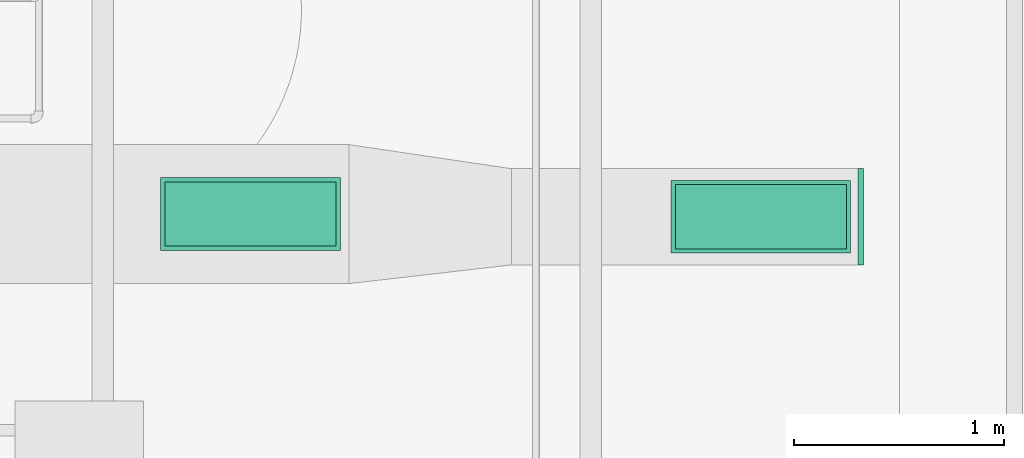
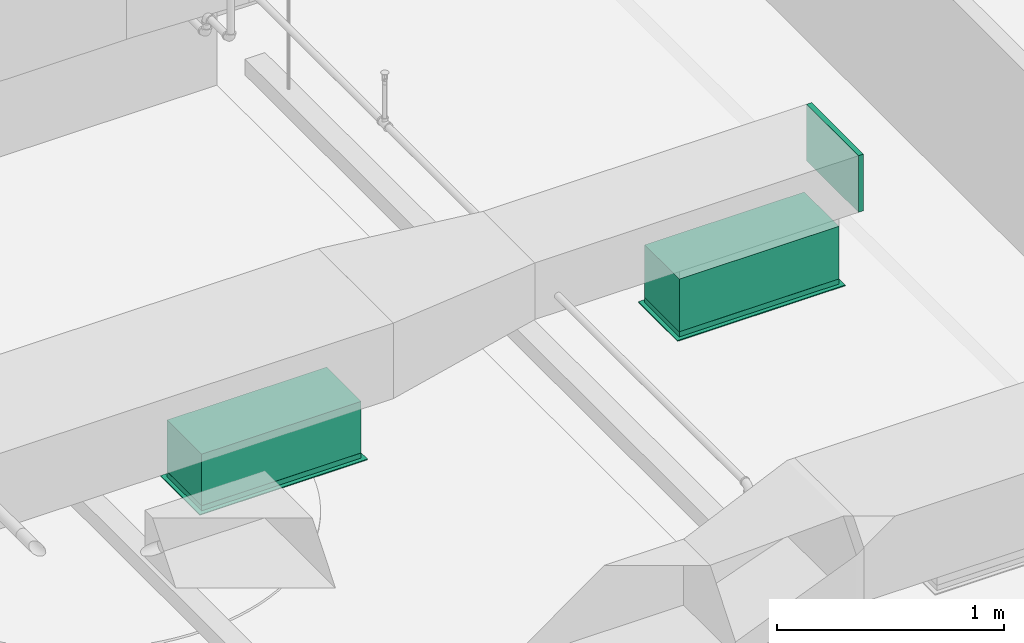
# One storey, part 45 of 108: 2 air terminals, 2 duct segments, 1 duct fitting.
"""IFC4 building model written with IfcOpenShell, lengths in feet."""

import ifcopenshell
import ifcopenshell.guid

model = None  # the IFC model being written
_history = None  # IfcOwnerHistory: only IFC2X3 demands one
_inside = {}  # id of a spatial element -> (the spatial element, [elements in it])
_under = {}  # id of a project, library or spatial element -> (it, [spatial elements below it])
_declared = {}  # id of a project -> (the project, [libraries it declares])
_typed = {}  # id of a type object -> (the type object, [elements of that type])
_made_of = {}  # id of a material, layer set ... -> (it, [elements and type objects made of it])


def new_model(schema):
    """Start an empty IFC model of exactly this schema.

    Asked for "IFC4X3", IfcOpenShell would pick the latest addendum, in which some entities
    have other attributes; the version numbers below select the first issue.
    IFC2X3 requires an IfcOwnerHistory on every rooted entity: one is made here for all.
    """
    global model, _history
    if schema == "IFC4X3":
        model = ifcopenshell.file(schema_version=(4, 3, 0, 0))
    else:
        model = ifcopenshell.file(schema=schema)
    _inside.clear()
    _under.clear()
    _declared.clear()
    _typed.clear()
    _made_of.clear()
    _history = None
    if model.schema == "IFC2X3":
        org = make("IfcOrganization", Name="unknown")
        user = make(
            "IfcPersonAndOrganization",
            ThePerson=make("IfcPerson", FamilyName="unknown"),
            TheOrganization=org,
        )
        app = make(
            "IfcApplication",
            ApplicationDeveloper=org,
            Version="unknown",
            ApplicationFullName="unknown",
            ApplicationIdentifier="unknown",
        )
        _history = make(
            "IfcOwnerHistory",
            OwningUser=user,
            OwningApplication=app,
            ChangeAction="ADDED",
            CreationDate=0,
        )
    return model


def make(cls, **values):
    """One entity of the class cls with the attributes given. An attribute that is None is left unset."""
    return model.create_entity(
        cls, **{name: value for name, value in values.items() if value is not None}
    )


def entity(cls, *values):
    """Any entity or typed value of the class cls, its attributes in the order of the schema. None: left unset."""
    e = model.create_entity(cls)
    for i, value in enumerate(values):
        if value is not None:
            e[i] = value
    return e


def rooted(cls, **values):
    """An entity with a GlobalId (a new one), such as an element, a storey or a relation."""
    return make(cls, GlobalId=ifcopenshell.guid.new(), OwnerHistory=_history, **values)


def si_unit(unit_type, name, prefix=None):
    """IfcSIUnit, for example si_unit("LENGTHUNIT", "METRE", prefix="MILLI")."""
    return make("IfcSIUnit", UnitType=unit_type, Prefix=prefix, Name=name)


def converted_unit(unit_type, name, factor, base, dimensions=None, offset=None):
    """IfcConversionBasedUnit, such as the inch: factor (a typed value) times the base unit."""
    return make(
        "IfcConversionBasedUnit"
        if offset is None
        else "IfcConversionBasedUnitWithOffset",
        ConversionOffset=offset,
        Dimensions=None
        if dimensions is None
        else entity("IfcDimensionalExponents", *dimensions),
        UnitType=unit_type,
        Name=name,
        ConversionFactor=make(
            "IfcMeasureWithUnit", ValueComponent=factor, UnitComponent=base
        ),
    )


def derived_unit(unit_type, elements):
    """IfcDerivedUnit: a product of units, each with its exponent."""
    return make(
        "IfcDerivedUnit",
        Elements=[
            make("IfcDerivedUnitElement", Unit=unit, Exponent=power)
            for unit, power in elements
        ],
        UnitType=unit_type,
    )


def assignment(units):
    """IfcUnitAssignment: the units of a project."""
    return None if units is None else make("IfcUnitAssignment", Units=units)


def point(xyz):
    """IfcCartesianPoint."""
    return None if xyz is None else make("IfcCartesianPoint", Coordinates=xyz)


def direction(xyz):
    """IfcDirection."""
    return None if xyz is None else make("IfcDirection", DirectionRatios=xyz)


def frame(location, z_axis=None, x_axis=None):
    """IfcAxis2Placement3D, a coordinate frame: its origin and axes. An axis left out is left unset."""
    return make(
        "IfcAxis2Placement3D",
        Location=point(location),
        Axis=direction(z_axis),
        RefDirection=direction(x_axis),
    )


def frame_2d(location, x_axis=None):
    """IfcAxis2Placement2D, a coordinate frame in the plane: its origin and x axis."""
    return make(
        "IfcAxis2Placement2D", Location=point(location), RefDirection=direction(x_axis)
    )


def origin():
    """The frame at (0, 0, 0) with its axes left unset."""
    return frame((0.0, 0.0, 0.0))


def place(relative_to, where):
    """IfcLocalPlacement: puts the frame where relative to a parent placement (None: the world)."""
    return make(
        "IfcLocalPlacement", PlacementRelTo=relative_to, RelativePlacement=where
    )


def context(
    kind, dimensions, precision=None, world=None, true_north=None, identifier=None
):
    """IfcGeometricRepresentationContext, for example the 3D "Model" context."""
    return make(
        "IfcGeometricRepresentationContext",
        ContextIdentifier=identifier,
        ContextType=kind,
        CoordinateSpaceDimension=dimensions,
        Precision=precision,
        WorldCoordinateSystem=world,
        TrueNorth=true_north,
    )


def subcontext(parent, identifier, kind, view, scale=None):
    """IfcGeometricRepresentationSubContext, for example "Body" below "Model"."""
    return make(
        "IfcGeometricRepresentationSubContext",
        ContextIdentifier=identifier,
        ContextType=kind,
        ParentContext=parent,
        TargetScale=scale,
        TargetView=view,
    )


def project(units=None, contexts=None):
    """IfcProject with its units and contexts."""
    return rooted(
        "IfcProject",
        Name="project",
        RepresentationContexts=contexts,
        UnitsInContext=assignment(units),
    )


def spatial(cls, under=None, at=None, **own):
    """A site, building, storey or space (cls), placed at a placement, below another one or the project."""
    s = rooted(cls, ObjectPlacement=at, **own)
    if under is not None:
        _under.setdefault(under.id(), (under, []))[1].append(s)
    return s


def profile(cls, at=None, kind="AREA", **sizes):
    """A parametric profile (cls). Its sizes go by their IFC names, for example OverallWidth=200.0."""
    return make(cls, ProfileType=kind, Position=at, **sizes)


def rectangle(**sizes):
    """IfcRectangleProfileDef."""
    return profile("IfcRectangleProfileDef", **sizes)


def extrude(swept, where, along, depth):
    """IfcExtrudedAreaSolid: the profile swept, set in the frame where, extruded along a direction by depth."""
    return make(
        "IfcExtrudedAreaSolid",
        SweptArea=swept,
        Position=where,
        ExtrudedDirection=direction(along),
        Depth=depth,
    )


def shape(context_of_items, identifier, shape_type, items):
    """IfcShapeRepresentation: the items that make up one representation, for example the "Body"."""
    return make(
        "IfcShapeRepresentation",
        ContextOfItems=context_of_items,
        RepresentationIdentifier=identifier,
        RepresentationType=shape_type,
        Items=items,
    )


def source(mapping_origin, context_of_items, identifier, shape_type, items):
    """IfcRepresentationMap: a shape defined once, which mapped items show again and again."""
    return make(
        "IfcRepresentationMap",
        MappingOrigin=mapping_origin,
        MappedRepresentation=shape(context_of_items, identifier, shape_type, items),
    )


def transform(
    local_origin,
    x_axis=None,
    y_axis=None,
    z_axis=None,
    scale=None,
    scale2=None,
    scale3=None,
    uniform=True,
):
    """IfcCartesianTransformationOperator3D, or its non-uniform kind. x_axis, y_axis, z_axis: its Axis1, 2, 3."""
    if uniform:
        return make(
            "IfcCartesianTransformationOperator3D",
            Axis1=direction(x_axis),
            Axis2=direction(y_axis),
            LocalOrigin=point(local_origin),
            Scale=scale,
            Axis3=direction(z_axis),
        )
    return make(
        "IfcCartesianTransformationOperator3DnonUniform",
        Axis1=direction(x_axis),
        Axis2=direction(y_axis),
        LocalOrigin=point(local_origin),
        Scale=scale,
        Axis3=direction(z_axis),
        Scale2=scale2,
        Scale3=scale3,
    )


def mapped(mapping_source, mapping_target):
    """IfcMappedItem: shows the shape of a source again, moved by a transform."""
    return make(
        "IfcMappedItem", MappingSource=mapping_source, MappingTarget=mapping_target
    )


def made_of(thing, what):
    """Note that an element or type object is made of a material, layer set ...; save() writes the relation."""
    if what is not None:
        _made_of.setdefault(what.id(), (what, []))[1].append(thing)
    return thing


def type_object(cls, material=None, **own):
    """A type object (cls), such as IfcWallType, which elements share."""
    return made_of(rooted(cls, **own), material)


def type_shapes(of_type, sources):
    """Give a type object the sources (RepresentationMaps) that its elements show as mapped items."""
    of_type.RepresentationMaps = sources


def element(
    cls,
    number,
    at=None,
    inside=None,
    cuts=None,
    type_object=None,
    material=None,
    context=None,
    identifier="Body",
    shape_type=None,
    held_by="IfcProductDefinitionShape",
    body=None,
    shapes=None,
    **own,
):
    """One element of the class cls, such as IfcWall. Its Tag is "e" and its number.

    at: its placement. inside: the storey or other place that contains it. cuts: it is an
    opening in that element (IfcRelVoidsElement). A single representation is given by context,
    identifier, shape_type and body (its items); several are given by shapes. held_by: the class
    of the entity that holds the representations. save() writes the other relations.
    """
    e = rooted(cls, Tag="e%d" % number, ObjectPlacement=at, **own)
    if body is not None:
        shapes = [shape(context, identifier, shape_type, body)]
    if shapes is not None:
        e.Representation = make(held_by, Representations=shapes)
    if inside is not None:
        _inside.setdefault(inside.id(), (inside, []))[1].append(e)
    if cuts is not None:
        rooted(
            "IfcRelVoidsElement", RelatingBuildingElement=cuts, RelatedOpeningElement=e
        )
    if type_object is not None:
        _typed.setdefault(type_object.id(), (type_object, []))[1].append(e)
    return made_of(e, material)


def aggregate(whole, parts):
    """IfcRelAggregates: a whole, such as a stair, and the parts it consists of."""
    return rooted("IfcRelAggregates", RelatingObject=whole, RelatedObjects=parts)


def save(model, path):
    """Write the relations noted so far, then the file.

    IfcRelAggregates (storeys below a building ...), IfcRelContainedInSpatialStructure (elements
    in a storey), IfcRelDefinesByType, IfcRelAssociatesMaterial and IfcRelDeclares: one each for
    every whole, place, type object, material and project.
    """
    for whole, parts in _under.values():
        aggregate(whole, parts)
    for where, things in _inside.values():
        rooted(
            "IfcRelContainedInSpatialStructure",
            RelatedElements=things,
            RelatingStructure=where,
        )
    for kind, things in _typed.values():
        rooted("IfcRelDefinesByType", RelatedObjects=things, RelatingType=kind)
    for what, things in _made_of.values():
        rooted("IfcRelAssociatesMaterial", RelatedObjects=things, RelatingMaterial=what)
    for by, libraries in _declared.values():
        rooted("IfcRelDeclares", RelatingContext=by, RelatedDefinitions=libraries)
    model.write(path)


model = new_model("IFC4")

# Units and contexts
model_context = context("Model", 3, precision=0.0001, world=origin(), true_north=direction((6.12303176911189e-17, 1.0)))
body_context = subcontext(model_context, "Body", "Model", "MODEL_VIEW")
ifc_project = project(units=[converted_unit("LENGTHUNIT", "FOOT", entity("IfcRatioMeasure", 0.3048), si_unit("LENGTHUNIT", "METRE"), dimensions=[1, 0, 0, 0, 0, 0, 0]), converted_unit("AREAUNIT", "SQUARE FOOT", entity("IfcRatioMeasure", 0.09290304), si_unit("AREAUNIT", "SQUARE_METRE"), dimensions=[2, 0, 0, 0, 0, 0, 0]), converted_unit("VOLUMEUNIT", "CUBIC FOOT", entity("IfcRatioMeasure", 0.028316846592), si_unit("VOLUMEUNIT", "CUBIC_METRE"), dimensions=[3, 0, 0, 0, 0, 0, 0]), converted_unit("PLANEANGLEUNIT", "DEGREE", entity("IfcRatioMeasure", 0.0174532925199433), si_unit("PLANEANGLEUNIT", "RADIAN"), dimensions=[0, 0, 0, 0, 0, 0, 0]), si_unit("MASSUNIT", "GRAM", prefix="KILO"), derived_unit("MASSDENSITYUNIT", [(si_unit("MASSUNIT", "GRAM", prefix="KILO"), 1), (si_unit("LENGTHUNIT", "METRE"), -3)]), si_unit("TIMEUNIT", "SECOND"), si_unit("FREQUENCYUNIT", "HERTZ"), si_unit("THERMODYNAMICTEMPERATUREUNIT", "DEGREE_CELSIUS"), derived_unit("THERMALTRANSMITTANCEUNIT", [(si_unit("MASSUNIT", "GRAM", prefix="KILO"), 1), (si_unit("THERMODYNAMICTEMPERATUREUNIT", "KELVIN"), -1), (si_unit("TIMEUNIT", "SECOND"), -3)]), derived_unit("VOLUMETRICFLOWRATEUNIT", [(si_unit("LENGTHUNIT", "METRE"), 3), (si_unit("TIMEUNIT", "SECOND"), -1)]), si_unit("ELECTRICCURRENTUNIT", "AMPERE"), si_unit("ELECTRICVOLTAGEUNIT", "VOLT"), si_unit("POWERUNIT", "WATT"), si_unit("FORCEUNIT", "NEWTON"), si_unit("ILLUMINANCEUNIT", "LUX"), si_unit("LUMINOUSFLUXUNIT", "LUMEN"), si_unit("LUMINOUSINTENSITYUNIT", "CANDELA"), derived_unit("USERDEFINED", [(si_unit("MASSUNIT", "GRAM", prefix="KILO"), -1), (si_unit("LENGTHUNIT", "METRE"), -2), (si_unit("TIMEUNIT", "SECOND"), 3), (si_unit("LUMINOUSFLUXUNIT", "LUMEN"), 1)]), derived_unit("LINEARVELOCITYUNIT", [(si_unit("LENGTHUNIT", "METRE"), 1), (si_unit("TIMEUNIT", "SECOND"), -1)]), si_unit("PRESSUREUNIT", "PASCAL"), derived_unit("USERDEFINED", [(si_unit("LENGTHUNIT", "METRE"), -2), (si_unit("MASSUNIT", "GRAM", prefix="KILO"), 1), (si_unit("TIMEUNIT", "SECOND"), -2)])], contexts=[model_context])

# Site, building, storey
site_placement = place(None, origin())
site = spatial("IfcSite", under=ifc_project, at=site_placement, Name="Default", CompositionType="ELEMENT")
building_placement = place(site_placement, origin())
building = spatial("IfcBuilding", under=site, at=building_placement, CompositionType="ELEMENT")
storey_placement = place(building_placement, frame((0.0, 0.0, 168.0)))
storey = spatial("IfcBuildingStorey", under=building, at=storey_placement, Name="Level 15", CompositionType="ELEMENT", Elevation=168.0)

# Duct segments
duct_segment_type = type_object("IfcDuctSegmentType", Name="Rectangular Duct:Square Throat Elbows / S&D", PredefinedType="NOTDEFINED")
duct_segment_1_placement = place(storey_placement, frame((-23.5857314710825, -4.23329294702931, 8.65364583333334)))
element("IfcDuctSegment", 1, at=duct_segment_1_placement, inside=storey, type_object=duct_segment_type, Name="Rectangular Duct:Square Throat Elbows / S&D", ObjectType="Rectangular Duct:Square Throat Elbows / S&D", PredefinedType="NOTDEFINED", context=body_context, shape_type="SweptSolid", body=[
    extrude(rectangle(XDim=2.66666666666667, YDim=1.0, at=frame_2d((-1.77635683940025e-15, 0.0), x_axis=(1.0, 0.0))), frame((1.33333333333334, 0.500000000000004, 0.0), z_axis=(0.0, 0.0, 1.0), x_axis=(-1.0, 0.0, 0.0)), (0.0, 0.0, 1.0), 0.929687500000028),
])
duct_segment_2_placement = place(storey_placement, frame((-31.5419066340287, -4.19162628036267, 8.34114583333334)))
element("IfcDuctSegment", 2, at=duct_segment_2_placement, inside=storey, type_object=duct_segment_type, Name="Rectangular Duct:Square Throat Elbows / S&D", ObjectType="Rectangular Duct:Square Throat Elbows / S&D", PredefinedType="NOTDEFINED", context=body_context, shape_type="SweptSolid", body=[
    extrude(rectangle(XDim=2.66666666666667, YDim=1.0, at=frame_2d((1.77635683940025e-15, 0.0), x_axis=(1.0, 0.0))), frame((1.33333333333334, 0.500000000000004, 0.0), z_axis=(0.0, 0.0, 1.0), x_axis=(-1.0, 0.0, 0.0)), (0.0, 0.0, 1.0), 0.908854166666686),
])

# Duct fitting
duct_fitting_type = type_object("IfcDuctFittingType", Name="Standard", PredefinedType="NOTDEFINED")
shared_shape_1 = source(origin(), body_context, "Body", "SweptSolid", [
    extrude(rectangle(XDim=0.0833333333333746, YDim=1.5, at=frame_2d((-6.17561557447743e-16, 0.0), x_axis=(1.0, 0.0))), frame((0.0416666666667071, 0.0, -0.500000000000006)), (0.0, 0.0, 1.0), 1.0),
])
type_shapes(duct_fitting_type, [shared_shape_1])
duct_fitting_placement = place(storey_placement, frame((-20.7369973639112, -3.73329294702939, 10.4166666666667)))
element("IfcDuctFitting", 3, at=duct_fitting_placement, inside=storey, type_object=duct_fitting_type, Name="Rectangular Endcap:Standard", ObjectType="Rectangular Endcap:Standard", PredefinedType="NOTDEFINED", context=body_context, shape_type="MappedRepresentation", body=[
    mapped(shared_shape_1, transform((0.0, 0.0, 0.0), scale=1.0)),
])

# Air terminals
air_terminal_type = type_object("IfcAirTerminalType", Name="32x12", PredefinedType="NOTDEFINED")
cartesian_point_1 = entity("IfcCartesianPoint", [1.40104166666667, -0.015625, 0.567708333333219])
vertex_point_1 = entity("IfcVertexPoint", cartesian_point_1)
cartesian_point_2 = entity("IfcCartesianPoint", [-1.40104166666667, -0.015625, 0.567708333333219])
vertex_point_2 = entity("IfcVertexPoint", cartesian_point_2)
ifc_direction_1 = entity("IfcDirection", [-1.0, 0.0, 0.0])
edge_curve_1 = entity("IfcEdgeCurve", vertex_point_1, vertex_point_2, entity("IfcTrimmedCurve", entity("IfcLine", cartesian_point_1, entity("IfcVector", ifc_direction_1, 1.0)), [cartesian_point_1], [cartesian_point_2], True, "CARTESIAN"), True)
cartesian_point_3 = entity("IfcCartesianPoint", [-1.40104166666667, -0.015625, -0.567708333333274])
vertex_point_3 = entity("IfcVertexPoint", cartesian_point_3)
ifc_direction_2 = entity("IfcDirection", [0.0, 0.0, -1.0])
edge_curve_2 = entity("IfcEdgeCurve", vertex_point_2, vertex_point_3, entity("IfcTrimmedCurve", entity("IfcLine", cartesian_point_2, entity("IfcVector", ifc_direction_2, 1.0)), [cartesian_point_2], [cartesian_point_3], True, "CARTESIAN"), True)
cartesian_point_4 = entity("IfcCartesianPoint", [1.40104166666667, -0.015625, -0.567708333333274])
vertex_point_4 = entity("IfcVertexPoint", cartesian_point_4)
ifc_direction_3 = entity("IfcDirection", [1.0, 0.0, 0.0])
edge_curve_3 = entity("IfcEdgeCurve", vertex_point_3, vertex_point_4, entity("IfcTrimmedCurve", entity("IfcLine", cartesian_point_3, entity("IfcVector", ifc_direction_3, 1.0)), [cartesian_point_3], [cartesian_point_4], True, "CARTESIAN"), True)
ifc_direction_4 = entity("IfcDirection", [0.0, 0.0, 1.0])
edge_curve_4 = entity("IfcEdgeCurve", vertex_point_4, vertex_point_1, entity("IfcTrimmedCurve", entity("IfcLine", cartesian_point_4, entity("IfcVector", ifc_direction_4, 1.0)), [cartesian_point_4], [cartesian_point_1], True, "CARTESIAN"), True)
ifc_direction_5 = entity("IfcDirection", [0.0, -1.0, 0.0])
cartesian_point_5 = entity("IfcCartesianPoint", [1.40104166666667, 0.0, 0.567708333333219])
vertex_point_5 = entity("IfcVertexPoint", cartesian_point_5)
cartesian_point_6 = entity("IfcCartesianPoint", [1.40104166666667, 0.0, -0.567708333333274])
vertex_point_6 = entity("IfcVertexPoint", cartesian_point_6)
edge_curve_5 = entity("IfcEdgeCurve", vertex_point_5, vertex_point_6, entity("IfcTrimmedCurve", entity("IfcLine", cartesian_point_5, entity("IfcVector", ifc_direction_2, 1.0)), [cartesian_point_5], [cartesian_point_6], True, "CARTESIAN"), True)
cartesian_point_7 = entity("IfcCartesianPoint", [-1.40104166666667, 0.0, -0.567708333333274])
vertex_point_7 = entity("IfcVertexPoint", cartesian_point_7)
edge_curve_6 = entity("IfcEdgeCurve", vertex_point_6, vertex_point_7, entity("IfcTrimmedCurve", entity("IfcLine", cartesian_point_6, entity("IfcVector", ifc_direction_1, 1.0)), [cartesian_point_6], [cartesian_point_7], True, "CARTESIAN"), True)
cartesian_point_8 = entity("IfcCartesianPoint", [-1.40104166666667, 0.0, 0.567708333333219])
vertex_point_8 = entity("IfcVertexPoint", cartesian_point_8)
edge_curve_7 = entity("IfcEdgeCurve", vertex_point_7, vertex_point_8, entity("IfcTrimmedCurve", entity("IfcLine", cartesian_point_7, entity("IfcVector", ifc_direction_4, 1.0)), [cartesian_point_7], [cartesian_point_8], True, "CARTESIAN"), True)
edge_curve_8 = entity("IfcEdgeCurve", vertex_point_8, vertex_point_5, entity("IfcTrimmedCurve", entity("IfcLine", cartesian_point_8, entity("IfcVector", ifc_direction_3, 1.0)), [cartesian_point_8], [cartesian_point_5], True, "CARTESIAN"), True)
cartesian_point_9 = entity("IfcCartesianPoint", [-1.33333333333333, 0.0, 0.5])
vertex_point_9 = entity("IfcVertexPoint", cartesian_point_9)
cartesian_point_10 = entity("IfcCartesianPoint", [-1.33333333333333, 0.0, -0.5])
vertex_point_10 = entity("IfcVertexPoint", cartesian_point_10)
edge_curve_9 = entity("IfcEdgeCurve", vertex_point_9, vertex_point_10, entity("IfcTrimmedCurve", entity("IfcLine", cartesian_point_9, entity("IfcVector", ifc_direction_2, 1.0)), [cartesian_point_9], [cartesian_point_10], True, "CARTESIAN"), True)
cartesian_point_11 = entity("IfcCartesianPoint", [1.33333333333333, 0.0, -0.5])
vertex_point_11 = entity("IfcVertexPoint", cartesian_point_11)
edge_curve_10 = entity("IfcEdgeCurve", vertex_point_10, vertex_point_11, entity("IfcTrimmedCurve", entity("IfcLine", cartesian_point_10, entity("IfcVector", ifc_direction_3, 1.0)), [cartesian_point_10], [cartesian_point_11], True, "CARTESIAN"), True)
cartesian_point_12 = entity("IfcCartesianPoint", [1.33333333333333, 0.0, 0.5])
vertex_point_12 = entity("IfcVertexPoint", cartesian_point_12)
edge_curve_11 = entity("IfcEdgeCurve", vertex_point_11, vertex_point_12, entity("IfcTrimmedCurve", entity("IfcLine", cartesian_point_11, entity("IfcVector", ifc_direction_4, 1.0)), [cartesian_point_11], [cartesian_point_12], True, "CARTESIAN"), True)
edge_curve_12 = entity("IfcEdgeCurve", vertex_point_12, vertex_point_9, entity("IfcTrimmedCurve", entity("IfcLine", cartesian_point_12, entity("IfcVector", ifc_direction_1, 1.0)), [cartesian_point_12], [cartesian_point_9], True, "CARTESIAN"), True)
ifc_direction_6 = entity("IfcDirection", [0.0, 1.0, 0.0])
edge_curve_13 = entity("IfcEdgeCurve", vertex_point_1, vertex_point_5, entity("IfcTrimmedCurve", entity("IfcLine", cartesian_point_1, entity("IfcVector", ifc_direction_6, 1.0)), [cartesian_point_1], [cartesian_point_5], True, "CARTESIAN"), True)
edge_curve_14 = entity("IfcEdgeCurve", vertex_point_8, vertex_point_2, entity("IfcTrimmedCurve", entity("IfcLine", cartesian_point_2, entity("IfcVector", ifc_direction_5, 1.0)), [cartesian_point_8], [cartesian_point_2], True, "CARTESIAN"), True)
edge_curve_15 = entity("IfcEdgeCurve", vertex_point_7, vertex_point_3, entity("IfcTrimmedCurve", entity("IfcLine", cartesian_point_3, entity("IfcVector", ifc_direction_5, 1.0)), [cartesian_point_7], [cartesian_point_3], True, "CARTESIAN"), True)
edge_curve_16 = entity("IfcEdgeCurve", vertex_point_6, vertex_point_4, entity("IfcTrimmedCurve", entity("IfcLine", cartesian_point_4, entity("IfcVector", ifc_direction_5, 1.0)), [cartesian_point_6], [cartesian_point_4], True, "CARTESIAN"), True)
cartesian_point_13 = entity("IfcCartesianPoint", [-1.33333333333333, 0.08984375, 0.5])
vertex_point_13 = entity("IfcVertexPoint", cartesian_point_13)
cartesian_point_14 = entity("IfcCartesianPoint", [1.33333333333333, 0.08984375, 0.5])
vertex_point_14 = entity("IfcVertexPoint", cartesian_point_14)
edge_curve_17 = entity("IfcEdgeCurve", vertex_point_13, vertex_point_14, entity("IfcTrimmedCurve", entity("IfcLine", cartesian_point_13, entity("IfcVector", ifc_direction_3, 1.0)), [cartesian_point_13], [cartesian_point_14], True, "CARTESIAN"), True)
cartesian_point_15 = entity("IfcCartesianPoint", [1.33333333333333, 0.08984375, -0.5])
vertex_point_15 = entity("IfcVertexPoint", cartesian_point_15)
edge_curve_18 = entity("IfcEdgeCurve", vertex_point_14, vertex_point_15, entity("IfcTrimmedCurve", entity("IfcLine", cartesian_point_14, entity("IfcVector", ifc_direction_2, 1.0)), [cartesian_point_14], [cartesian_point_15], True, "CARTESIAN"), True)
cartesian_point_16 = entity("IfcCartesianPoint", [-1.33333333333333, 0.08984375, -0.5])
vertex_point_16 = entity("IfcVertexPoint", cartesian_point_16)
edge_curve_19 = entity("IfcEdgeCurve", vertex_point_15, vertex_point_16, entity("IfcTrimmedCurve", entity("IfcLine", cartesian_point_15, entity("IfcVector", ifc_direction_1, 1.0)), [cartesian_point_15], [cartesian_point_16], True, "CARTESIAN"), True)
edge_curve_20 = entity("IfcEdgeCurve", vertex_point_16, vertex_point_13, entity("IfcTrimmedCurve", entity("IfcLine", cartesian_point_16, entity("IfcVector", ifc_direction_4, 1.0)), [cartesian_point_16], [cartesian_point_13], True, "CARTESIAN"), True)
cartesian_point_17 = entity("IfcCartesianPoint", [-1.3125, 0.08984375, 0.479166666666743])
vertex_point_17 = entity("IfcVertexPoint", cartesian_point_17)
cartesian_point_18 = entity("IfcCartesianPoint", [-1.3125, 0.08984375, -0.479166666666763])
vertex_point_18 = entity("IfcVertexPoint", cartesian_point_18)
edge_curve_21 = entity("IfcEdgeCurve", vertex_point_17, vertex_point_18, entity("IfcTrimmedCurve", entity("IfcLine", cartesian_point_17, entity("IfcVector", ifc_direction_2, 1.0)), [cartesian_point_17], [cartesian_point_18], True, "CARTESIAN"), True)
cartesian_point_19 = entity("IfcCartesianPoint", [1.3125, 0.08984375, -0.479166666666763])
vertex_point_19 = entity("IfcVertexPoint", cartesian_point_19)
edge_curve_22 = entity("IfcEdgeCurve", vertex_point_18, vertex_point_19, entity("IfcTrimmedCurve", entity("IfcLine", cartesian_point_18, entity("IfcVector", ifc_direction_3, 1.0)), [cartesian_point_18], [cartesian_point_19], True, "CARTESIAN"), True)
cartesian_point_20 = entity("IfcCartesianPoint", [1.3125, 0.08984375, 0.479166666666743])
vertex_point_20 = entity("IfcVertexPoint", cartesian_point_20)
edge_curve_23 = entity("IfcEdgeCurve", vertex_point_19, vertex_point_20, entity("IfcTrimmedCurve", entity("IfcLine", cartesian_point_19, entity("IfcVector", ifc_direction_4, 1.0)), [cartesian_point_19], [cartesian_point_20], True, "CARTESIAN"), True)
edge_curve_24 = entity("IfcEdgeCurve", vertex_point_20, vertex_point_17, entity("IfcTrimmedCurve", entity("IfcLine", cartesian_point_20, entity("IfcVector", ifc_direction_1, 1.0)), [cartesian_point_20], [cartesian_point_17], True, "CARTESIAN"), True)
edge_curve_25 = entity("IfcEdgeCurve", vertex_point_16, vertex_point_10, entity("IfcTrimmedCurve", entity("IfcLine", cartesian_point_10, entity("IfcVector", ifc_direction_5, 1.0)), [cartesian_point_16], [cartesian_point_10], True, "CARTESIAN"), True)
edge_curve_26 = entity("IfcEdgeCurve", vertex_point_9, vertex_point_13, entity("IfcTrimmedCurve", entity("IfcLine", cartesian_point_9, entity("IfcVector", ifc_direction_6, 1.0)), [cartesian_point_9], [cartesian_point_13], True, "CARTESIAN"), True)
edge_curve_27 = entity("IfcEdgeCurve", vertex_point_15, vertex_point_11, entity("IfcTrimmedCurve", entity("IfcLine", cartesian_point_11, entity("IfcVector", ifc_direction_5, 1.0)), [cartesian_point_15], [cartesian_point_11], True, "CARTESIAN"), True)
edge_curve_28 = entity("IfcEdgeCurve", vertex_point_14, vertex_point_12, entity("IfcTrimmedCurve", entity("IfcLine", cartesian_point_12, entity("IfcVector", ifc_direction_5, 1.0)), [cartesian_point_14], [cartesian_point_12], True, "CARTESIAN"), True)
cartesian_point_21 = entity("IfcCartesianPoint", [-1.3125, 0.0911458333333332, 0.479166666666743])
vertex_point_21 = entity("IfcVertexPoint", cartesian_point_21)
cartesian_point_22 = entity("IfcCartesianPoint", [1.3125, 0.0911458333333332, 0.479166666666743])
vertex_point_22 = entity("IfcVertexPoint", cartesian_point_22)
edge_curve_29 = entity("IfcEdgeCurve", vertex_point_21, vertex_point_22, entity("IfcTrimmedCurve", entity("IfcLine", cartesian_point_21, entity("IfcVector", ifc_direction_3, 1.0)), [cartesian_point_21], [cartesian_point_22], True, "CARTESIAN"), True)
cartesian_point_23 = entity("IfcCartesianPoint", [1.3125, 0.0911458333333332, -0.479166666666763])
vertex_point_23 = entity("IfcVertexPoint", cartesian_point_23)
edge_curve_30 = entity("IfcEdgeCurve", vertex_point_22, vertex_point_23, entity("IfcTrimmedCurve", entity("IfcLine", cartesian_point_22, entity("IfcVector", ifc_direction_2, 1.0)), [cartesian_point_22], [cartesian_point_23], True, "CARTESIAN"), True)
cartesian_point_24 = entity("IfcCartesianPoint", [-1.3125, 0.0911458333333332, -0.479166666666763])
vertex_point_24 = entity("IfcVertexPoint", cartesian_point_24)
edge_curve_31 = entity("IfcEdgeCurve", vertex_point_23, vertex_point_24, entity("IfcTrimmedCurve", entity("IfcLine", cartesian_point_23, entity("IfcVector", ifc_direction_1, 1.0)), [cartesian_point_23], [cartesian_point_24], True, "CARTESIAN"), True)
edge_curve_32 = entity("IfcEdgeCurve", vertex_point_24, vertex_point_21, entity("IfcTrimmedCurve", entity("IfcLine", cartesian_point_24, entity("IfcVector", ifc_direction_4, 1.0)), [cartesian_point_24], [cartesian_point_21], True, "CARTESIAN"), True)
edge_curve_33 = entity("IfcEdgeCurve", vertex_point_24, vertex_point_18, entity("IfcTrimmedCurve", entity("IfcLine", cartesian_point_18, entity("IfcVector", ifc_direction_5, 1.0)), [cartesian_point_24], [cartesian_point_18], True, "CARTESIAN"), True)
edge_curve_34 = entity("IfcEdgeCurve", vertex_point_17, vertex_point_21, entity("IfcTrimmedCurve", entity("IfcLine", cartesian_point_17, entity("IfcVector", ifc_direction_6, 1.0)), [cartesian_point_17], [cartesian_point_21], True, "CARTESIAN"), True)
edge_curve_35 = entity("IfcEdgeCurve", vertex_point_23, vertex_point_19, entity("IfcTrimmedCurve", entity("IfcLine", cartesian_point_19, entity("IfcVector", ifc_direction_5, 1.0)), [cartesian_point_23], [cartesian_point_19], True, "CARTESIAN"), True)
edge_curve_36 = entity("IfcEdgeCurve", vertex_point_22, vertex_point_20, entity("IfcTrimmedCurve", entity("IfcLine", cartesian_point_20, entity("IfcVector", ifc_direction_5, 1.0)), [cartesian_point_22], [cartesian_point_20], True, "CARTESIAN"), True)
shared_shape_2 = source(origin(), body_context, "Body", "AdvancedBrep", [
    entity("IfcAdvancedBrep", entity("IfcClosedShell", [entity("IfcAdvancedFace", [entity("IfcFaceOuterBound", entity("IfcEdgeLoop", [entity("IfcOrientedEdge", None, None, edge_curve_1, True), entity("IfcOrientedEdge", None, None, edge_curve_2, True), entity("IfcOrientedEdge", None, None, edge_curve_3, True), entity("IfcOrientedEdge", None, None, edge_curve_4, True)]), True)], entity("IfcPlane", entity("IfcAxis2Placement3D", cartesian_point_2, ifc_direction_5, ifc_direction_1)), True), entity("IfcAdvancedFace", [entity("IfcFaceOuterBound", entity("IfcEdgeLoop", [entity("IfcOrientedEdge", None, None, edge_curve_5, True), entity("IfcOrientedEdge", None, None, edge_curve_6, True), entity("IfcOrientedEdge", None, None, edge_curve_7, True), entity("IfcOrientedEdge", None, None, edge_curve_8, True)]), True), entity("IfcFaceBound", entity("IfcEdgeLoop", [entity("IfcOrientedEdge", None, None, edge_curve_9, True), entity("IfcOrientedEdge", None, None, edge_curve_10, True), entity("IfcOrientedEdge", None, None, edge_curve_11, True), entity("IfcOrientedEdge", None, None, edge_curve_12, True)]), False)], entity("IfcPlane", entity("IfcAxis2Placement3D", cartesian_point_8, ifc_direction_6, ifc_direction_3)), True), entity("IfcAdvancedFace", [entity("IfcFaceOuterBound", entity("IfcEdgeLoop", [entity("IfcOrientedEdge", None, None, edge_curve_1, False), entity("IfcOrientedEdge", None, None, edge_curve_13, True), entity("IfcOrientedEdge", None, None, edge_curve_8, False), entity("IfcOrientedEdge", None, None, edge_curve_14, True)]), True)], entity("IfcPlane", entity("IfcAxis2Placement3D", cartesian_point_1, ifc_direction_4, ifc_direction_6)), True), entity("IfcAdvancedFace", [entity("IfcFaceOuterBound", entity("IfcEdgeLoop", [entity("IfcOrientedEdge", None, None, edge_curve_2, False), entity("IfcOrientedEdge", None, None, edge_curve_14, False), entity("IfcOrientedEdge", None, None, edge_curve_7, False), entity("IfcOrientedEdge", None, None, edge_curve_15, True)]), True)], entity("IfcPlane", entity("IfcAxis2Placement3D", cartesian_point_2, ifc_direction_1, ifc_direction_6)), True), entity("IfcAdvancedFace", [entity("IfcFaceOuterBound", entity("IfcEdgeLoop", [entity("IfcOrientedEdge", None, None, edge_curve_3, False), entity("IfcOrientedEdge", None, None, edge_curve_15, False), entity("IfcOrientedEdge", None, None, edge_curve_6, False), entity("IfcOrientedEdge", None, None, edge_curve_16, True)]), True)], entity("IfcPlane", entity("IfcAxis2Placement3D", cartesian_point_3, ifc_direction_2, ifc_direction_6)), True), entity("IfcAdvancedFace", [entity("IfcFaceOuterBound", entity("IfcEdgeLoop", [entity("IfcOrientedEdge", None, None, edge_curve_4, False), entity("IfcOrientedEdge", None, None, edge_curve_16, False), entity("IfcOrientedEdge", None, None, edge_curve_5, False), entity("IfcOrientedEdge", None, None, edge_curve_13, False)]), True)], entity("IfcPlane", entity("IfcAxis2Placement3D", cartesian_point_4, ifc_direction_3, ifc_direction_6)), True), entity("IfcAdvancedFace", [entity("IfcFaceOuterBound", entity("IfcEdgeLoop", [entity("IfcOrientedEdge", None, None, edge_curve_17, True), entity("IfcOrientedEdge", None, None, edge_curve_18, True), entity("IfcOrientedEdge", None, None, edge_curve_19, True), entity("IfcOrientedEdge", None, None, edge_curve_20, True)]), True), entity("IfcFaceBound", entity("IfcEdgeLoop", [entity("IfcOrientedEdge", None, None, edge_curve_21, True), entity("IfcOrientedEdge", None, None, edge_curve_22, True), entity("IfcOrientedEdge", None, None, edge_curve_23, True), entity("IfcOrientedEdge", None, None, edge_curve_24, True)]), False)], entity("IfcPlane", entity("IfcAxis2Placement3D", cartesian_point_13, ifc_direction_6, ifc_direction_4)), True), entity("IfcAdvancedFace", [entity("IfcFaceOuterBound", entity("IfcEdgeLoop", [entity("IfcOrientedEdge", None, None, edge_curve_20, False), entity("IfcOrientedEdge", None, None, edge_curve_25, True), entity("IfcOrientedEdge", None, None, edge_curve_9, False), entity("IfcOrientedEdge", None, None, edge_curve_26, True)]), True)], entity("IfcPlane", entity("IfcAxis2Placement3D", cartesian_point_9, ifc_direction_1, ifc_direction_6)), True), entity("IfcAdvancedFace", [entity("IfcFaceOuterBound", entity("IfcEdgeLoop", [entity("IfcOrientedEdge", None, None, edge_curve_19, False), entity("IfcOrientedEdge", None, None, edge_curve_27, True), entity("IfcOrientedEdge", None, None, edge_curve_10, False), entity("IfcOrientedEdge", None, None, edge_curve_25, False)]), True)], entity("IfcPlane", entity("IfcAxis2Placement3D", cartesian_point_10, ifc_direction_2, ifc_direction_6)), True), entity("IfcAdvancedFace", [entity("IfcFaceOuterBound", entity("IfcEdgeLoop", [entity("IfcOrientedEdge", None, None, edge_curve_18, False), entity("IfcOrientedEdge", None, None, edge_curve_28, True), entity("IfcOrientedEdge", None, None, edge_curve_11, False), entity("IfcOrientedEdge", None, None, edge_curve_27, False)]), True)], entity("IfcPlane", entity("IfcAxis2Placement3D", cartesian_point_11, ifc_direction_3, ifc_direction_6)), True), entity("IfcAdvancedFace", [entity("IfcFaceOuterBound", entity("IfcEdgeLoop", [entity("IfcOrientedEdge", None, None, edge_curve_17, False), entity("IfcOrientedEdge", None, None, edge_curve_26, False), entity("IfcOrientedEdge", None, None, edge_curve_12, False), entity("IfcOrientedEdge", None, None, edge_curve_28, False)]), True)], entity("IfcPlane", entity("IfcAxis2Placement3D", cartesian_point_12, ifc_direction_4, ifc_direction_6)), True), entity("IfcAdvancedFace", [entity("IfcFaceOuterBound", entity("IfcEdgeLoop", [entity("IfcOrientedEdge", None, None, edge_curve_29, True), entity("IfcOrientedEdge", None, None, edge_curve_30, True), entity("IfcOrientedEdge", None, None, edge_curve_31, True), entity("IfcOrientedEdge", None, None, edge_curve_32, True)]), True)], entity("IfcPlane", entity("IfcAxis2Placement3D", cartesian_point_21, ifc_direction_6, ifc_direction_4)), True), entity("IfcAdvancedFace", [entity("IfcFaceOuterBound", entity("IfcEdgeLoop", [entity("IfcOrientedEdge", None, None, edge_curve_32, False), entity("IfcOrientedEdge", None, None, edge_curve_33, True), entity("IfcOrientedEdge", None, None, edge_curve_21, False), entity("IfcOrientedEdge", None, None, edge_curve_34, True)]), True)], entity("IfcPlane", entity("IfcAxis2Placement3D", cartesian_point_17, ifc_direction_1, ifc_direction_6)), True), entity("IfcAdvancedFace", [entity("IfcFaceOuterBound", entity("IfcEdgeLoop", [entity("IfcOrientedEdge", None, None, edge_curve_31, False), entity("IfcOrientedEdge", None, None, edge_curve_35, True), entity("IfcOrientedEdge", None, None, edge_curve_22, False), entity("IfcOrientedEdge", None, None, edge_curve_33, False)]), True)], entity("IfcPlane", entity("IfcAxis2Placement3D", cartesian_point_18, ifc_direction_2, ifc_direction_6)), True), entity("IfcAdvancedFace", [entity("IfcFaceOuterBound", entity("IfcEdgeLoop", [entity("IfcOrientedEdge", None, None, edge_curve_30, False), entity("IfcOrientedEdge", None, None, edge_curve_36, True), entity("IfcOrientedEdge", None, None, edge_curve_23, False), entity("IfcOrientedEdge", None, None, edge_curve_35, False)]), True)], entity("IfcPlane", entity("IfcAxis2Placement3D", cartesian_point_19, ifc_direction_3, ifc_direction_6)), True), entity("IfcAdvancedFace", [entity("IfcFaceOuterBound", entity("IfcEdgeLoop", [entity("IfcOrientedEdge", None, None, edge_curve_29, False), entity("IfcOrientedEdge", None, None, edge_curve_34, False), entity("IfcOrientedEdge", None, None, edge_curve_24, False), entity("IfcOrientedEdge", None, None, edge_curve_36, False)]), True)], entity("IfcPlane", entity("IfcAxis2Placement3D", cartesian_point_20, ifc_direction_4, ifc_direction_6)), True)])),
])
type_shapes(air_terminal_type, [shared_shape_2])
for number, where, z_axis, x_axis, name in (
    (4, (-22.2523981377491, -3.73329294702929, 8.5625), (0.0, 1.0, 0.0), (-1.0, 0.0, 0.0), "Supply Diffuser - Sidewall:32x12"),
    (5, (-30.2085733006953, -3.69162628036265, 8.25), (0.0, 1.0, 0.0), (-1.0, 0.0, 0.0), "Supply Diffuser - Sidewall:32x12"),
):
    element("IfcAirTerminal", number, at=place(storey_placement, frame(where, z_axis=z_axis, x_axis=x_axis)), inside=storey, type_object=air_terminal_type, Name=name, ObjectType="Supply Diffuser - Sidewall:32x12", PredefinedType="NOTDEFINED", context=body_context, shape_type="MappedRepresentation", body=[
        mapped(shared_shape_2, transform((0.0, 0.0, 0.0), scale=1.0)),
    ])

save(model, "model.ifc")
